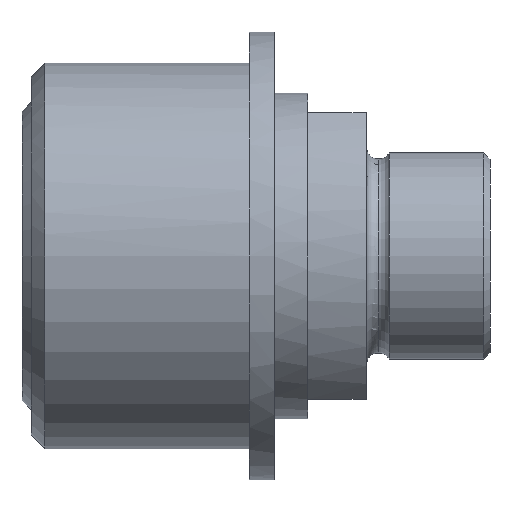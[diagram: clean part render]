
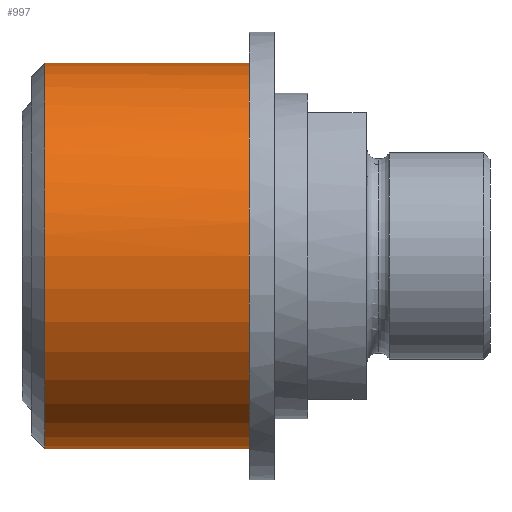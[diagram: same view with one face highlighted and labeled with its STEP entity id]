
A CAD part, front view. The second image highlights one B-rep face of the part: STEP entity #997.
In plain terms, the highlighted cylindrical face has radius 28 mm (diameter 56 mm), a partial arc.
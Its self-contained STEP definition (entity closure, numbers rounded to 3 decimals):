
#831=CARTESIAN_POINT('Vertex',(0.,0.,28.)) ;
#834=CARTESIAN_POINT('Axis2P3D Location',(0.,0.,0.)) ;
#838=CARTESIAN_POINT('Vertex',(0.,-28.,0.)) ;
#841=CARTESIAN_POINT('Axis2P3D Location',(0.,0.,0.)) ;
#845=CARTESIAN_POINT('Vertex',(0.,0.,-28.)) ;
#931=CARTESIAN_POINT('Line Origine',(35.,0.,-28.)) ;
#935=CARTESIAN_POINT('Vertex',(-29.697,0.,-28.)) ;
#952=CARTESIAN_POINT('Vertex',(-29.697,0.,28.)) ;
#955=CARTESIAN_POINT('Line Origine',(35.,0.,28.)) ;
#969=CARTESIAN_POINT('Axis2P3D Location',(35.,0.,0.)) ;
#975=CARTESIAN_POINT('Control Point',(-29.697,0.,28.)) ;
#976=CARTESIAN_POINT('Control Point',(-29.697,-8.796,28.)) ;
#977=CARTESIAN_POINT('Control Point',(-29.697,-17.601,24.556)) ;
#978=CARTESIAN_POINT('Control Point',(-29.697,-24.556,17.601)) ;
#979=CARTESIAN_POINT('Control Point',(-29.697,-28.,8.796)) ;
#980=CARTESIAN_POINT('Control Point',(-29.697,-28.,0.)) ;
#981=CARTESIAN_POINT('Vertex',(-29.697,-28.,0.)) ;
#984=CARTESIAN_POINT('Axis2P3D Location',(-29.697,0.,0.)) ;
#835=DIRECTION('Axis2P3D Direction',(1.,0.,-0.)) ;
#842=DIRECTION('Axis2P3D Direction',(1.,0.,-0.)) ;
#932=DIRECTION('Vector Direction',(-1.,0.,0.)) ;
#956=DIRECTION('Vector Direction',(-1.,0.,0.)) ;
#970=DIRECTION('Axis2P3D Direction',(-1.,-0.,-0.)) ;
#971=DIRECTION('Axis2P3D XDirection',(0.,0.,-1.)) ;
#985=DIRECTION('Axis2P3D Direction',(-1.,-0.,-0.)) ;
#836=AXIS2_PLACEMENT_3D('Circle Axis2P3D',#834,#835,$) ;
#843=AXIS2_PLACEMENT_3D('Circle Axis2P3D',#841,#842,$) ;
#972=AXIS2_PLACEMENT_3D('Cylinder Axis2P3D',#969,#970,#971) ;
#986=AXIS2_PLACEMENT_3D('Circle Axis2P3D',#984,#985,$) ;
#990=ORIENTED_EDGE('',*,*,#959,.T.) ;
#991=ORIENTED_EDGE('',*,*,#983,.T.) ;
#992=ORIENTED_EDGE('',*,*,#988,.T.) ;
#993=ORIENTED_EDGE('',*,*,#937,.T.) ;
#994=ORIENTED_EDGE('',*,*,#847,.F.) ;
#995=ORIENTED_EDGE('',*,*,#840,.F.) ;
#933=VECTOR('Line Direction',#932,1.) ;
#957=VECTOR('Line Direction',#956,1.) ;
#997=ADVANCED_FACE('AGS3412M30',(#996),#973,.T.) ;
#974=B_SPLINE_CURVE_WITH_KNOTS('',5,(#975,#976,#977,#978,#979,#980),.UNSPECIFIED.,.F.,.U.,(6,6),(-21.991,21.991),.UNSPECIFIED.) ;
#837=CIRCLE('generated circle',#836,28.) ;
#844=CIRCLE('generated circle',#843,28.) ;
#987=CIRCLE('generated circle',#986,28.) ;
#973=CYLINDRICAL_SURFACE('generated cylinder',#972,28.) ;
#840=EDGE_CURVE('',#832,#839,#837,.T.) ;
#847=EDGE_CURVE('',#839,#846,#844,.T.) ;
#937=EDGE_CURVE('',#936,#846,#934,.F.) ;
#959=EDGE_CURVE('',#832,#953,#958,.T.) ;
#983=EDGE_CURVE('',#953,#982,#974,.T.) ;
#988=EDGE_CURVE('',#982,#936,#987,.F.) ;
#989=EDGE_LOOP('',(#990,#991,#992,#993,#994,#995)) ;
#996=FACE_OUTER_BOUND('',#989,.T.) ;
#934=LINE('Line',#931,#933) ;
#958=LINE('Line',#955,#957) ;
#832=VERTEX_POINT('',#831) ;
#839=VERTEX_POINT('',#838) ;
#846=VERTEX_POINT('',#845) ;
#936=VERTEX_POINT('',#935) ;
#953=VERTEX_POINT('',#952) ;
#982=VERTEX_POINT('',#981) ;
